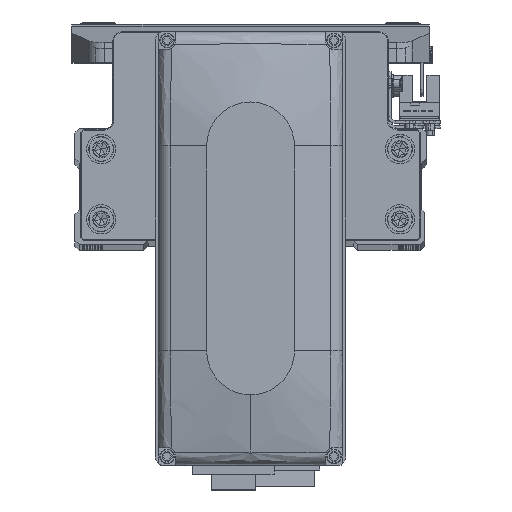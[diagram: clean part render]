
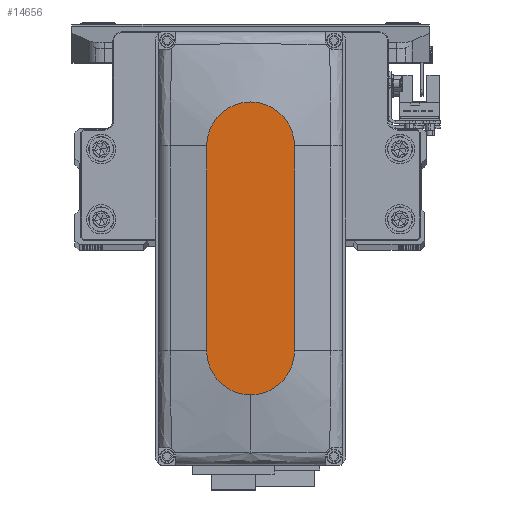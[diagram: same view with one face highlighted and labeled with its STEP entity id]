
A CAD part, top view. The second image highlights one B-rep face of the part: STEP entity #14656.
In plain terms, the highlighted planar face has unit normal (0, 0, 1).
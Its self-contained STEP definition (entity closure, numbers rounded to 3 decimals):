
#2975 = CARTESIAN_POINT ( 'NONE',  ( -35., 15., 35. ) ) ;
#3097 = CARTESIAN_POINT ( 'NONE',  ( 0., 0., 35. ) ) ;
#5241 = DIRECTION ( 'NONE',  ( 1., 0., 0. ) ) ;
#5481 = ORIENTED_EDGE ( 'NONE', *, *, #10018, .T. ) ;
#6115 = LINE ( 'NONE', #21167, #37043 ) ;
#7730 = DIRECTION ( 'NONE',  ( 0., 0., 1. ) ) ;
#9671 = EDGE_CURVE ( 'NONE', #31530, #30651, #14116, .T. ) ;
#10018 = EDGE_CURVE ( 'NONE', #17640, #31530, #44463, .T. ) ;
#10632 = CARTESIAN_POINT ( 'NONE',  ( -35., 15., 35. ) ) ;
#10899 = ORIENTED_EDGE ( 'NONE', *, *, #30953, .T. ) ;
#11362 = CIRCLE ( 'NONE', #38983, 15. ) ;
#11647 = AXIS2_PLACEMENT_3D ( 'NONE', #3097, #18135, #33188 ) ;
#14104 = EDGE_CURVE ( 'NONE', #21932, #17640, #18698, .T. ) ;
#14116 = CIRCLE ( 'NONE', #41705, 15. ) ;
#14221 = VERTEX_POINT ( 'NONE', #40445 ) ;
#14656 = ADVANCED_FACE ( 'NONE', ( #21850 ), #36910, .T. ) ;
#15969 = CARTESIAN_POINT ( 'NONE',  ( 35., 0., 35. ) ) ;
#17640 = VERTEX_POINT ( 'NONE', #39181 ) ;
#17695 = VECTOR ( 'NONE', #25693, 1000. ) ;
#18135 = DIRECTION ( 'NONE',  ( 0., 0., 1. ) ) ;
#18698 = CIRCLE ( 'NONE', #46305, 15. ) ;
#18856 = CARTESIAN_POINT ( 'NONE',  ( 50., 0., 35. ) ) ;
#19699 = ORIENTED_EDGE ( 'NONE', *, *, #9671, .T. ) ;
#21167 = CARTESIAN_POINT ( 'NONE',  ( -35., -15., 35. ) ) ;
#21657 = CARTESIAN_POINT ( 'NONE',  ( -35., -15., 35. ) ) ;
#21850 = FACE_OUTER_BOUND ( 'NONE', #48237, .T. ) ;
#21932 = VERTEX_POINT ( 'NONE', #18856 ) ;
#22770 = DIRECTION ( 'NONE',  ( 1., 0., 0. ) ) ;
#23986 = CARTESIAN_POINT ( 'NONE',  ( 35., 0., 35. ) ) ;
#25693 = DIRECTION ( 'NONE',  ( -1., 0., 0. ) ) ;
#26985 = ORIENTED_EDGE ( 'NONE', *, *, #31921, .T. ) ;
#30651 = VERTEX_POINT ( 'NONE', #21657 ) ;
#30953 = EDGE_CURVE ( 'NONE', #14221, #21932, #11362, .T. ) ;
#31016 = DIRECTION ( 'NONE',  ( 0., 0., 1. ) ) ;
#31530 = VERTEX_POINT ( 'NONE', #2975 ) ;
#31921 = EDGE_CURVE ( 'NONE', #30651, #14221, #6115, .T. ) ;
#33188 = DIRECTION ( 'NONE',  ( 1., 0., 0. ) ) ;
#36224 = DIRECTION ( 'NONE',  ( 1., 0., 0. ) ) ;
#36910 = PLANE ( 'NONE',  #11647 ) ;
#37043 = VECTOR ( 'NONE', #36224, 1000. ) ;
#38983 = AXIS2_PLACEMENT_3D ( 'NONE', #15969, #31016, #46084 ) ;
#39060 = DIRECTION ( 'NONE',  ( 0., 0., 1. ) ) ;
#39181 = CARTESIAN_POINT ( 'NONE',  ( 35., 15., 35. ) ) ;
#40445 = CARTESIAN_POINT ( 'NONE',  ( 35., -15., 35. ) ) ;
#41552 = CARTESIAN_POINT ( 'NONE',  ( -35., 0., 35. ) ) ;
#41705 = AXIS2_PLACEMENT_3D ( 'NONE', #41552, #7730, #22770 ) ;
#44463 = LINE ( 'NONE', #10632, #17695 ) ;
#46084 = DIRECTION ( 'NONE',  ( 1., 0., 0. ) ) ;
#46305 = AXIS2_PLACEMENT_3D ( 'NONE', #23986, #39060, #5241 ) ;
#48211 = ORIENTED_EDGE ( 'NONE', *, *, #14104, .T. ) ;
#48237 = EDGE_LOOP ( 'NONE', ( #5481, #19699, #26985, #10899, #48211 ) ) ;
